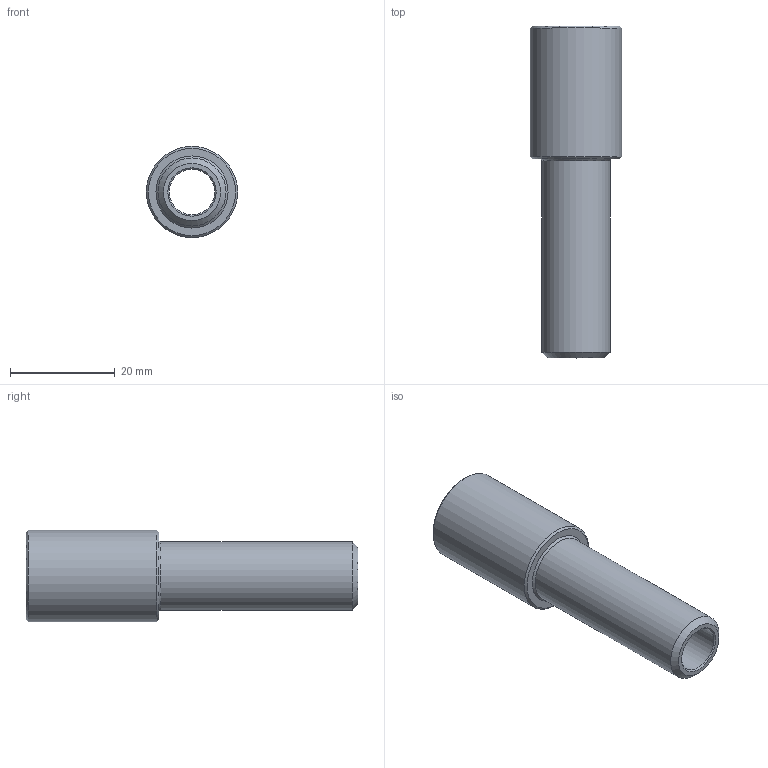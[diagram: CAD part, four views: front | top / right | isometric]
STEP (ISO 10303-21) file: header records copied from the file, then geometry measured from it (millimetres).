
FILE_DESCRIPTION(/* description */ (''),/* implementation_level */ '2;1');
FILE_NAME(/* name */ 'C:/Users/drich/Desktop/EP14X2-1_2 v1.step',/* time_stamp */ '2019-11-18T15:01:24-06:00',/* author */ (''),/* organization */ (''),/* preprocessor_version */ 'ST-DEVELOPER v18',/* originating_system */ 'Autodesk Translation Framework v8.12.0.6',/* authorisation */ '');
FILE_SCHEMA (('AUTOMOTIVE_DESIGN { 1 0 10303 214 3 1 1 }'));
Length unit declared in the file: inch
Products named in the file (2): EP14X2-1_2; EP14X2.5
Assembly tree (1 placements, depth 2):
  EP14X2-1_2
    EP14X2.5
Bounding box: 17.45 x 63.5 x 17.45 mm (x, y, z)
Volume: 6464.1 mm3; surface area: 5180.8 mm2
Topology: 1 solids, 1 shells, 23 faces, 55 edges, 37 vertices
Faces by surface type: plane 11, cone 7, cylinder 5
Full cylindrical faces by diameter (mm): 8.712 x1, 11.43 x1, 11.668 x1, 13.032 x1, 17.45 x1
Entity records: 740 total; most frequent: CARTESIAN_POINT 132, DIRECTION 124, ORIENTED_EDGE 110, EDGE_CURVE 55, AXIS2_PLACEMENT_3D 50, VERTEX_POINT 37, EDGE_LOOP 28, LINE 24
